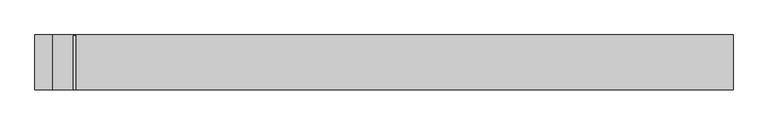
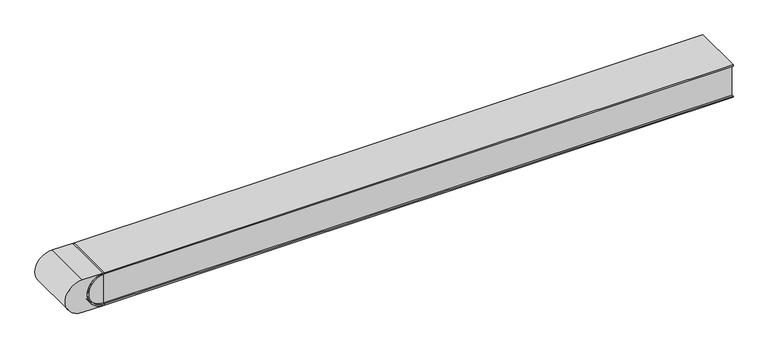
"""IFC4 building model written with IfcOpenShell, lengths in millimetres: light fixture geometry, Lighting-Wall-Betacalco-Block-Straight : BLKW-DT1-PW01-TR01-SL04-EP01-LP020-CR80-CTA40."""

from ifc_helpers import new_model, si_unit, point, frame, frame_2d, origin, place, context, project, spatial, polyline, circle_curve, trimmed, segment, composite_curve, outline, extrude, source, transform, mapped, element, save
from ifc_brep_helpers import plane_surface, cylinder_surface, revolved_surface, advanced_brep


def light_fixture_26ced0eb(model_context):
    return source(origin(), model_context, "Body", "SolidModel", [
        extrude(outline(composite_curve([segment(trimmed(circle_curve(frame_2d((47.3273437, -609.6)), 33.3375), [point((80.6648437, -609.6))], [point((13.9898437, -609.6))], False, "CARTESIAN"), True, "CONTINUOUS"), segment(polyline([(13.9898437, -609.6), (16.5298437, -609.6)]), True, "CONTINUOUS"), segment(trimmed(circle_curve(frame_2d((47.3273437, -609.6)), 30.7975), [point((16.5298437, -609.6))], [point((78.1248437, -609.6))], True, "CARTESIAN"), True, "CONTINUOUS"), segment(polyline([(78.1248437, -609.6), (80.6648437, -609.6)]), True, "CONTINUOUS")], self_intersect=False)), frame((0.0, 0.0, 0.0), z_axis=(0.0, 1.0, 0.0), x_axis=(0.0, 0.0, 1.0)), (0.0, 0.0, 1.0), 100.0125),
        extrude(outline(composite_curve([segment(trimmed(circle_curve(frame_2d((47.3273437, -609.6)), 30.7975), [point((78.1248437, -609.6))], [point((16.5298437, -609.6))], False, "CARTESIAN"), True, "CONTINUOUS"), segment(polyline([(16.5298437, -609.6), (78.1248437, -609.6)]), True, "CONTINUOUS")], self_intersect=False)), frame((0.0, 3.7029412, 0.0), z_axis=(0.0, 1.0, 0.0), x_axis=(0.0, 0.0, 1.0)), (0.0, 0.0, 1.0), 1.5875),
        advanced_brep(
        [(-609.6, 100.0125, 13.9898437), (-609.6, 100.0125, 80.6648437), (-609.6, 101.6, 80.6648437), (-609.6, 101.6, 13.9898437), (-652.4625, 101.6, 13.9898437), (-652.4625, 101.6, 80.6648437), (-609.6, 0.0, 13.9898437), (-609.6, 0.0, 80.6648437), (-652.4625, 0.0, 80.6648437), (-652.4625, 0.0, 13.9898437)],
        [
            (0, 1),
            (1, 0, circle_curve(frame((-609.6, 100.0125, 47.3273437), z_axis=(0.0, -1.0, 0.0), x_axis=(-1.0, 0.0, 0.0)), 33.3375)),
            (2, 3),
            (3, 4),
            (4, 5, circle_curve(frame((-652.4625, 101.6, 47.3273437), z_axis=(0.0, 1.0, 0.0), x_axis=(-1.0, 0.0, 0.0)), 33.3375)),
            (5, 2),
            (0, 3),
            (2, 1),
            (6, 7, circle_curve(frame((-609.6, 0.0, 47.3273437), z_axis=(0.0, 1.0, 0.0), x_axis=(-1.0, 0.0, 0.0)), 33.3375)),
            (7, 8),
            (8, 9, circle_curve(frame((-652.4625, 0.0, 47.3273437), z_axis=(0.0, -1.0, 0.0), x_axis=(-1.0, 0.0, 0.0)), 33.3375)),
            (9, 6),
            (6, 0),
            (1, 7),
            (5, 8),
            (4, 9),
        ],
        [
            plane_surface(frame((-642.9375, 100.0125, 47.3273437), z_axis=(0.0, -1.0, 0.0), x_axis=(0.0, 0.0, -1.0))),
            plane_surface(frame((-642.9375, 101.6, 47.3273437), z_axis=(0.0, 1.0, 0.0), x_axis=(0.0, 0.0, 1.0))),
            plane_surface(frame((-609.6, 100.0125, 13.9898437), z_axis=(1.0, 0.0, 0.0), x_axis=(0.0, 1.0, 0.0))),
            plane_surface(frame((-642.9375, 0.0, 47.3273437), z_axis=(0.0, -1.0, 0.0), x_axis=(0.0, 0.0, 1.0))),
            revolved_surface(polyline([(-642.9375, 100.0125, 47.3273437), (-642.9375, 0.0, 47.3273437)]), (-609.6, 101.6, 47.3273437), (0.0, 1.0, 0.0)),
            plane_surface(frame((-609.6, 0.0, 80.6648437), z_axis=(0.0, 0.0, 1.0), x_axis=(0.0, 1.0, 0.0))),
            cylinder_surface(frame((-652.4625, 101.6, 47.3273437), z_axis=(0.0, -1.0, 0.0), x_axis=(-1.0, 0.0, 0.0)), 33.3375),
            plane_surface(frame((-652.4625, 0.0, 13.9898437), z_axis=(0.0, 0.0, -1.0), x_axis=(0.0, 1.0, 0.0))),
        ],
        [
            (0, [[1, 2]]),
            (1, [[3, 4, 5, 6]]),
            (2, [[-1, 7, -3, 8]]),
            (3, [[9, 10, 11, 12]]),
            (4, [[-9, 13, -2, 14]]),
            (5, [[-10, -14, -8, -6, 15]]),
            (6, [[-11, -15, -5, 16]]),
            (7, [[-12, -16, -4, -7, -13]]),
        ],
    ),
        extrude(outline(polyline([(80.264, 5.867391), (80.264, 11.734422), (82.042, 11.734422), (82.042, 4.6224219), (69.3420002, 0.0), (50.292, 0.0), (50.292, 10.642789), (56.642, 12.954), (57.2501118, 11.2832265), (52.07, 9.39782), (52.07, 1.778), (69.0284906, 1.778), (80.264, 5.867391)])), frame((431.8, 0.0, 0.0), z_axis=(1.0, 0.0, 0.0), x_axis=(0.0, 1.0, 0.0)), (0.0, 0.0, 1.0), 76.2),
        extrude(outline(polyline([(88.3840625, 3.3774529), (82.0340625, 1.0662419), (81.4259507, 2.7370154), (86.6060625, 4.6224219), (86.6060625, 12.2422419), (69.6475719, 12.2422419), (58.4120625, 8.1528509), (58.4120625, 2.2858199), (56.6340625, 2.2858199), (56.6340625, 9.3978199), (69.3340625, 14.0202419), (88.3840625, 14.0202419), (88.3840625, 3.3774529)])), frame((431.8, 0.0, 0.0), z_axis=(1.0, 0.0, 0.0), x_axis=(0.0, 1.0, 0.0)), (0.0, 0.0, 1.0), 76.2),
        extrude(outline(polyline([(80.264, 5.867391), (80.264, 11.734422), (82.042, 11.734422), (82.042, 4.6224219), (69.3420002, 0.0), (50.292, 0.0), (50.292, 10.642789), (56.642, 12.954), (57.2501118, 11.2832265), (52.07, 9.39782), (52.07, 1.778), (69.0284906, 1.778), (80.264, 5.867391)])), frame((-508.0, 0.0, 0.0), z_axis=(1.0, 0.0, 0.0), x_axis=(0.0, 1.0, 0.0)), (0.0, 0.0, 1.0), 76.2),
        extrude(outline(polyline([(88.3840625, 3.3774529), (82.0340625, 1.0662419), (81.4259507, 2.7370154), (86.6060625, 4.6224219), (86.6060625, 12.2422419), (69.6475719, 12.2422419), (58.4120625, 8.1528509), (58.4120625, 2.2858199), (56.6340625, 2.2858199), (56.6340625, 9.3978199), (69.3340625, 14.0202419), (88.3840625, 14.0202419), (88.3840625, 3.3774529)])), frame((-508.0, 0.0, 0.0), z_axis=(1.0, 0.0, 0.0), x_axis=(0.0, 1.0, 0.0)), (0.0, 0.0, 1.0), 76.2),
        extrude(outline(polyline([(609.6, 5.2904412), (609.6, 3.7029412), (-609.6, 3.7029412), (-609.6, 5.2904412), (609.6, 5.2904412)])), frame((0.0, 0.0, 16.5298437), z_axis=(0.0, 0.0, 1.0), x_axis=(1.0, 0.0, 0.0)), (0.0, 0.0, 1.0), 61.595),
        extrude(outline(polyline([(609.6, 43.340087), (609.6, 41.752587), (-609.6, 41.752587), (-609.6, 43.340087), (609.6, 43.340087)])), frame((0.0, 0.0, 16.5298437), z_axis=(0.0, 0.0, 1.0), x_axis=(1.0, 0.0, 0.0)), (0.0, 0.0, 1.0), 61.595),
        extrude(outline(polyline([(609.6, 101.6), (609.6, 100.0125), (-609.6, 100.0125), (-609.6, 101.6), (609.6, 101.6)])), frame((0.0, 0.0, 16.5298437), z_axis=(0.0, 0.0, 1.0), x_axis=(1.0, 0.0, 0.0)), (0.0, 0.0, 1.0), 61.595),
        extrude(outline(polyline([(609.6, 101.6), (609.6, 0.0), (-609.6, 0.0), (-609.6, 101.6), (609.6, 101.6)])), frame((0.0, 0.0, 13.9898438), z_axis=(0.0, 0.0, 1.0), x_axis=(1.0, 0.0, 0.0)), (0.0, 0.0, 1.0), 2.54),
        extrude(outline(polyline([(609.6, 101.6), (609.6, 0.0), (-609.6, 0.0), (-609.6, 101.6), (609.6, 101.6)])), frame((0.0, 0.0, 78.1248438), z_axis=(0.0, 0.0, 1.0), x_axis=(1.0, 0.0, 0.0)), (0.0, 0.0, 1.0), 2.54),
    ])


if __name__ == "__main__":
    model = new_model("IFC4")
    model_context = context("Model", 3, world=origin())
    ifc_project = project(units=[si_unit("LENGTHUNIT", "METRE", prefix="MILLI")], contexts=[model_context])
    site = spatial("IfcSite", under=ifc_project)
    building = spatial("IfcBuilding", under=site)
    placement = place(None, origin())
    light_fixture_shape = light_fixture_26ced0eb(model_context)
    element("IfcLightFixture", 1, ObjectType="Lighting-Wall-Betacalco-Block-Straight : BLKW-DT1-PW01-TR01-SL04-EP01-LP020-CR80-CTA40", at=placement, inside=building, context=model_context, shape_type="MappedRepresentation", body=[
        mapped(light_fixture_shape, transform((0.0, 0.0, 0.0), x_axis=(1.0, 0.0, 0.0), y_axis=(0.0, 1.0, 0.0), z_axis=(0.0, 0.0, 1.0))),
    ])
    save(model, "model.ifc")
